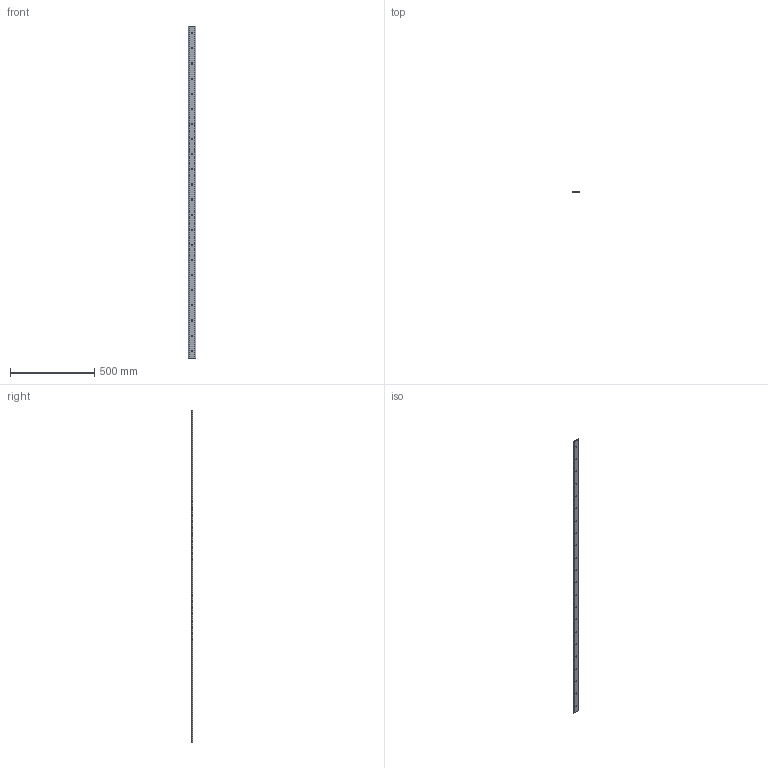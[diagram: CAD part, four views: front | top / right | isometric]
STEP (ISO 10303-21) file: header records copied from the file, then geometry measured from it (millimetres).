
FILE_DESCRIPTION(('STEP AP203'),'1');
FILE_NAME('slide_m44l1976p2.stp','2022-07-01T06:20:35',('TraceParts'),('TraceParts S.A.'),'Spatial InterOp 3D',' ',' ');
FILE_SCHEMA(('CONFIG_CONTROL_DESIGN'));
Length unit declared in the file: millimetre
Products named in the file (1): 1
Bounding box: 43.68 x 6.42 x 1976 mm (x, y, z)
Volume: 503795.1 mm3; surface area: 184204.5 mm2
Topology: 1 solids, 1 shells, 56 faces, 162 edges, 108 vertices
Faces by surface type: cylinder 48, plane 8
Entity records: 2034 total; most frequent: DIRECTION 372, CARTESIAN_POINT 327, ORIENTED_EDGE 324, EDGE_CURVE 162, AXIS2_PLACEMENT_3D 153, VERTEX_POINT 108, EDGE_LOOP 100, CIRCLE 96
